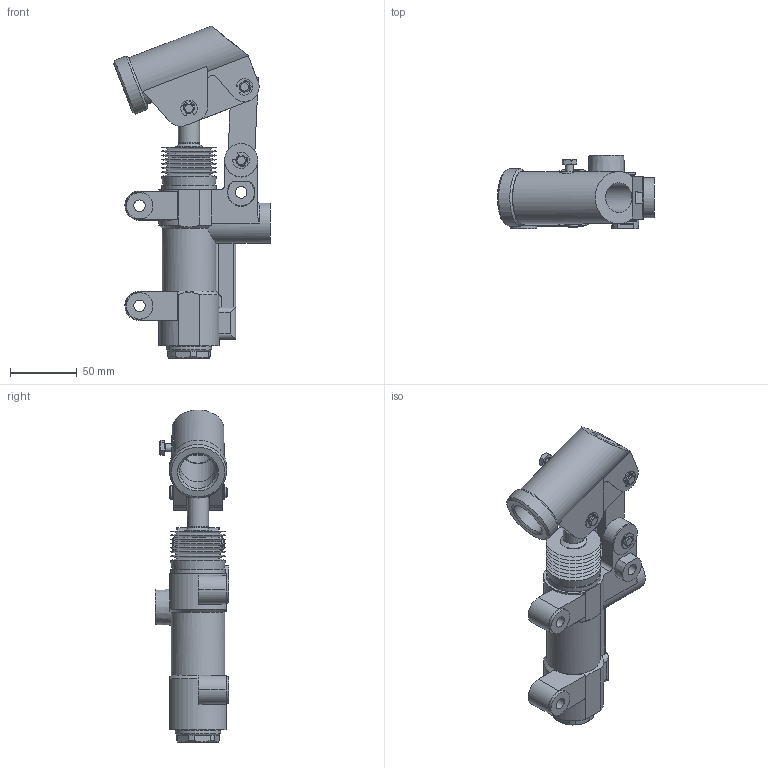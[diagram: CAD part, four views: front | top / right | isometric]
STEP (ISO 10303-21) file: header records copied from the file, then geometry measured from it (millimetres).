
FILE_DESCRIPTION(/* description */ ('Unknown'),/* implementation_level */ '2;1');
FILE_NAME(/* name */ 'HP20ES',/* time_stamp */ '2022-07-22T09:48:59+02:00',/* author */ ('Unknown'),/* organization */ ('Unknown'),/* preprocessor_version */ 'ST-DEVELOPER v18.1',/* originating_system */ 'Solid Edge',/* authorisation */ 'Unknown');
FILE_SCHEMA (('AUTOMOTIVE_DESIGN {1 0 10303 214 3 1 1}'));
Length unit declared in the file: millimetre
Products named in the file (1): HP20ES
Bounding box: 117.52 x 55 x 248.55 mm (x, y, z)
Surface area: 97357.3 mm2 (no closed solid volume)
Topology: 0 solids, 23 shells, 283 faces, 811 edges, 545 vertices
Faces by surface type: plane 127, cylinder 99, cone 46, torus 9, bspline 2
Full cylindrical faces by diameter (mm): 6 x4, 7.8 x6, 8.1 x1, 8.6 x3, 10 x3, 13.8 x1, 14.95 x1, 15.8 x1, 16 x3, 17 x1, 18.631 x2, 20 x1, 22 x1, 27.5 x2, 29 x2, 30 x1, 33.9 x1, 41 x1, 43 x1
Entity records: 9936 total; most frequent: CARTESIAN_POINT 1822, DIRECTION 1571, ORIENTED_EDGE 1246, EDGE_CURVE 715, AXIS2_PLACEMENT_3D 631, VERTEX_POINT 527, EDGE_LOOP 412, FACE_BOUND 412
